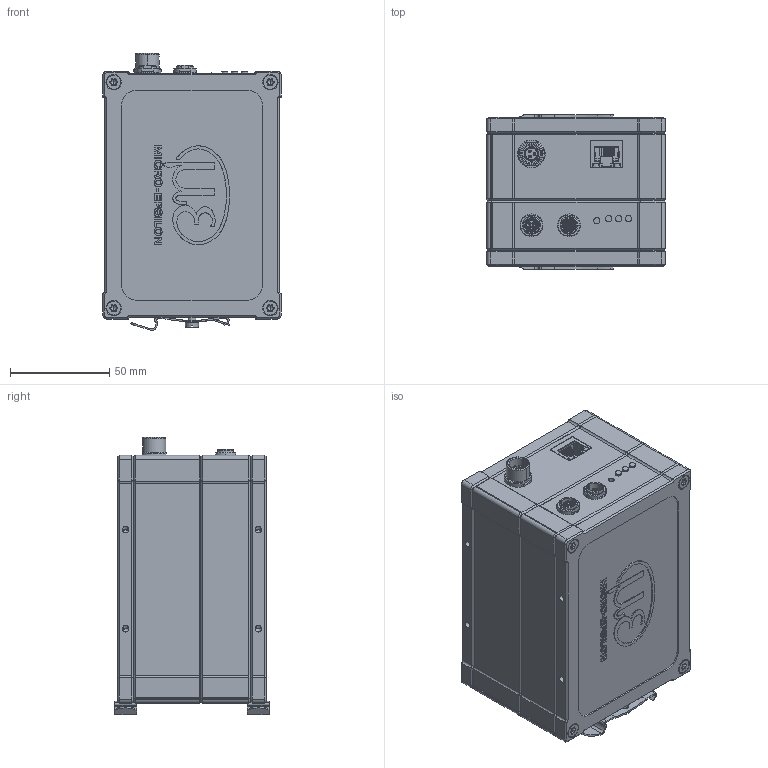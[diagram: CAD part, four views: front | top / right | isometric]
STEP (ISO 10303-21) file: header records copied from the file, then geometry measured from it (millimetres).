
FILE_DESCRIPTION((''),'2;1');
FILE_NAME('0000051335_ASM','2013-01-15T',('11000065'),(''),'PRO/ENGINEER BY PARAMETRIC TECHNOLOGY CORPORATION, 2012360','PRO/ENGINEER BY PARAMETRIC TECHNOLOGY CORPORATION, 2012360','');
FILE_SCHEMA(('AUTOMOTIVE_DESIGN { 1 0 10303 214 1 1 1 1 }'));
Products named in the file (15): 0000030906; 0000038141; 0000012139; GH1L0C-P03RP00-0000; C-5-6605425-1-E-3D; 0000047983_ASM; 0000030905; 0000047985; G50L0C-P04QF00-0000; 0323086; 0000047984_ASM; 0000038146; 0000042844; 0000013467; 0000051335_ASM
Assembly tree (25 placements, depth 3):
  0000051335_ASM
    0000047983_ASM
      0000030906
      0000038141
      0000012139  x4
      GH1L0C-P03RP00-0000
      C-5-6605425-1-E-3D
    0000047984_ASM
      0000030905
      0000047985  x3
      G50L0C-P04QF00-0000
      0323086
    0000038146
    0000042844  x2
    0000013467  x2
    0000012139  x4
Bounding box: 90 x 78 x 139.79 mm (x, y, z)
Volume: 205047.5 mm3; surface area: 137223.2 mm2
Topology: 25 solids, 25 shells, 2913 faces, 7807 edges, 5042 vertices
Faces by surface type: plane 1226, cone 722, cylinder 698, torus 178, extrusion 70, bspline 12, sphere 7
Entity records: 115918 total; most frequent: CARTESIAN_POINT 24706, ORIENTED_EDGE 14036, DIRECTION 13639, EDGE_CURVE 7018, PRESENTATION_STYLE_ASSIGNMENT 5681, STYLED_ITEM 5620, CURVE_STYLE 5326, AXIS2_PLACEMENT_3D 4965
